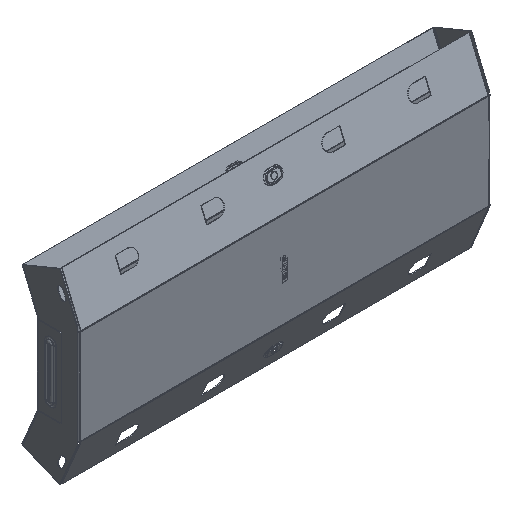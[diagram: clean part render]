
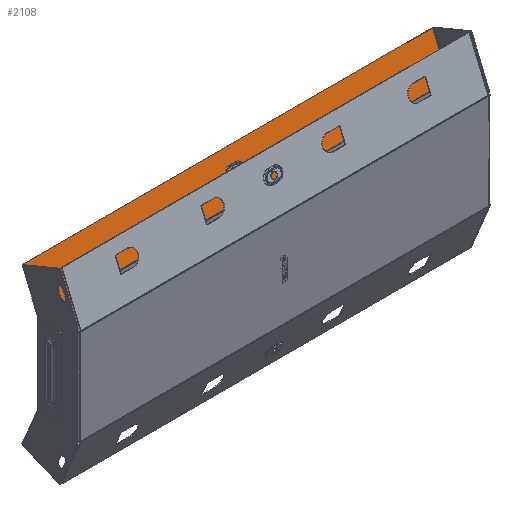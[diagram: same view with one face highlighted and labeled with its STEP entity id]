
A CAD part, isometric view. The second image highlights one B-rep face of the part: STEP entity #2108.
In plain terms, the highlighted planar face has unit normal (0, -0.924, 0.383).
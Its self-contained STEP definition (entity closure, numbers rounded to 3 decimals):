
#56 = VERTEX_POINT ( 'NONE', #4966 ) ;
#283 = ORIENTED_EDGE ( 'NONE', *, *, #12159, .F. ) ;
#330 = CARTESIAN_POINT ( 'NONE',  ( -249., -0.739, 48.306 ) ) ;
#940 = DIRECTION ( 'NONE',  ( -1., 0., 0. ) ) ;
#1301 = ORIENTED_EDGE ( 'NONE', *, *, #2576, .F. ) ;
#1447 = DIRECTION ( 'NONE',  ( -1., 0., 0. ) ) ;
#1657 = ORIENTED_EDGE ( 'NONE', *, *, #14497, .F. ) ;
#1666 = LINE ( 'NONE', #9327, #11669 ) ;
#2108 = ADVANCED_FACE ( 'NONE', ( #3421, #6747 ), #11487, .F. ) ;
#2353 = LINE ( 'NONE', #11681, #4450 ) ;
#2413 = DIRECTION ( 'NONE',  ( 0., -0.924, 0.383 ) ) ;
#2431 = CARTESIAN_POINT ( 'NONE',  ( 249., -0.739, 48.306 ) ) ;
#2491 = VERTEX_POINT ( 'NONE', #5385 ) ;
#2576 = EDGE_CURVE ( 'NONE', #8749, #2491, #2881, .T. ) ;
#2670 = DIRECTION ( 'NONE',  ( 1., 0., 0. ) ) ;
#2776 = CARTESIAN_POINT ( 'NONE',  ( 249., -0.739, 48.306 ) ) ;
#2881 = CIRCLE ( 'NONE', #9096, 7.598 ) ;
#2995 = VERTEX_POINT ( 'NONE', #13116 ) ;
#3184 = CARTESIAN_POINT ( 'NONE',  ( 3.5, 6.303, 65.307 ) ) ;
#3207 = DIRECTION ( 'NONE',  ( -1., 0., 0. ) ) ;
#3421 = FACE_BOUND ( 'NONE', #9445, .T. ) ;
#3929 = EDGE_LOOP ( 'NONE', ( #13236, #5948, #4178, #10965 ) ) ;
#4178 = ORIENTED_EDGE ( 'NONE', *, *, #11695, .F. ) ;
#4450 = VECTOR ( 'NONE', #2670, 1000. ) ;
#4652 = CARTESIAN_POINT ( 'NONE',  ( 3.5, 9.211, 72.327 ) ) ;
#4671 = DIRECTION ( 'NONE',  ( 0., 0.924, -0.383 ) ) ;
#4966 = CARTESIAN_POINT ( 'NONE',  ( 249., -0.663, 48.49 ) ) ;
#5183 = VECTOR ( 'NONE', #7013, 1000. ) ;
#5385 = CARTESIAN_POINT ( 'NONE',  ( 3.5, 12.118, 79.347 ) ) ;
#5948 = ORIENTED_EDGE ( 'NONE', *, *, #6957, .F. ) ;
#5997 = DIRECTION ( 'NONE',  ( 0., 0.383, 0.924 ) ) ;
#6567 = CARTESIAN_POINT ( 'NONE',  ( -3.5, 12.118, 79.347 ) ) ;
#6747 = FACE_OUTER_BOUND ( 'NONE', #3929, .T. ) ;
#6764 = LINE ( 'NONE', #13428, #10442 ) ;
#6839 = VERTEX_POINT ( 'NONE', #11443 ) ;
#6957 = EDGE_CURVE ( 'NONE', #56, #2995, #6764, .T. ) ;
#7013 = DIRECTION ( 'NONE',  ( 0., -0.383, -0.924 ) ) ;
#7923 = VERTEX_POINT ( 'NONE', #8745 ) ;
#8207 = VECTOR ( 'NONE', #11775, 1000. ) ;
#8745 = CARTESIAN_POINT ( 'NONE',  ( -249., 18.395, 94.5 ) ) ;
#8749 = VERTEX_POINT ( 'NONE', #3184 ) ;
#9096 = AXIS2_PLACEMENT_3D ( 'NONE', #4652, #2413, #13420 ) ;
#9327 = CARTESIAN_POINT ( 'NONE',  ( 249., 18.395, 94.5 ) ) ;
#9445 = EDGE_LOOP ( 'NONE', ( #1301, #1657, #14323, #283 ) ) ;
#9757 = VECTOR ( 'NONE', #940, 1000. ) ;
#10442 = VECTOR ( 'NONE', #3207, 1000. ) ;
#10453 = LINE ( 'NONE', #330, #5183 ) ;
#10699 = VERTEX_POINT ( 'NONE', #14502 ) ;
#10750 = DIRECTION ( 'NONE',  ( 0., -0.924, 0.383 ) ) ;
#10826 = LINE ( 'NONE', #2776, #8207 ) ;
#10965 = ORIENTED_EDGE ( 'NONE', *, *, #13999, .T. ) ;
#11266 = CARTESIAN_POINT ( 'NONE',  ( -3.5, 9.211, 72.327 ) ) ;
#11443 = CARTESIAN_POINT ( 'NONE',  ( 249., 18.395, 94.5 ) ) ;
#11487 = PLANE ( 'NONE',  #13874 ) ;
#11669 = VECTOR ( 'NONE', #1447, 1000. ) ;
#11681 = CARTESIAN_POINT ( 'NONE',  ( -3.5, 6.303, 65.307 ) ) ;
#11695 = EDGE_CURVE ( 'NONE', #6839, #56, #10826, .T. ) ;
#11775 = DIRECTION ( 'NONE',  ( 0., -0.383, -0.924 ) ) ;
#12074 = EDGE_CURVE ( 'NONE', #10699, #13199, #14472, .T. ) ;
#12159 = EDGE_CURVE ( 'NONE', #2491, #10699, #12229, .T. ) ;
#12229 = LINE ( 'NONE', #6567, #9757 ) ;
#12298 = CARTESIAN_POINT ( 'NONE',  ( -3.5, 6.303, 65.307 ) ) ;
#12323 = DIRECTION ( 'NONE',  ( 0., -0.383, -0.924 ) ) ;
#12420 = EDGE_CURVE ( 'NONE', #7923, #2995, #10453, .T. ) ;
#12972 = AXIS2_PLACEMENT_3D ( 'NONE', #11266, #10750, #12323 ) ;
#13116 = CARTESIAN_POINT ( 'NONE',  ( -249., -0.663, 48.49 ) ) ;
#13199 = VERTEX_POINT ( 'NONE', #12298 ) ;
#13236 = ORIENTED_EDGE ( 'NONE', *, *, #12420, .T. ) ;
#13420 = DIRECTION ( 'NONE',  ( 0., -0.383, -0.924 ) ) ;
#13428 = CARTESIAN_POINT ( 'NONE',  ( 249., -0.663, 48.49 ) ) ;
#13874 = AXIS2_PLACEMENT_3D ( 'NONE', #2431, #4671, #5997 ) ;
#13999 = EDGE_CURVE ( 'NONE', #6839, #7923, #1666, .T. ) ;
#14323 = ORIENTED_EDGE ( 'NONE', *, *, #12074, .F. ) ;
#14472 = CIRCLE ( 'NONE', #12972, 7.598 ) ;
#14497 = EDGE_CURVE ( 'NONE', #13199, #8749, #2353, .T. ) ;
#14502 = CARTESIAN_POINT ( 'NONE',  ( -3.5, 12.118, 79.347 ) ) ;
